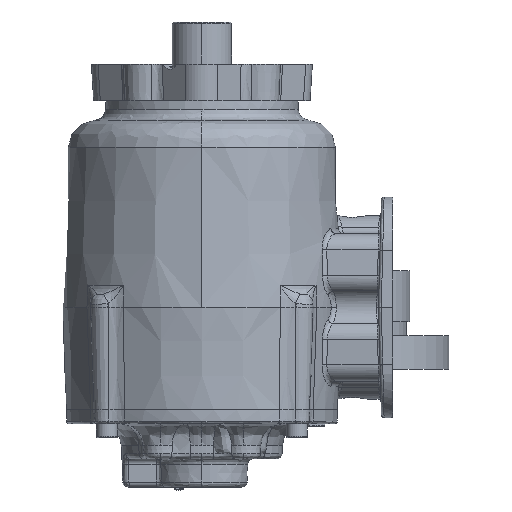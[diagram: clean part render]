
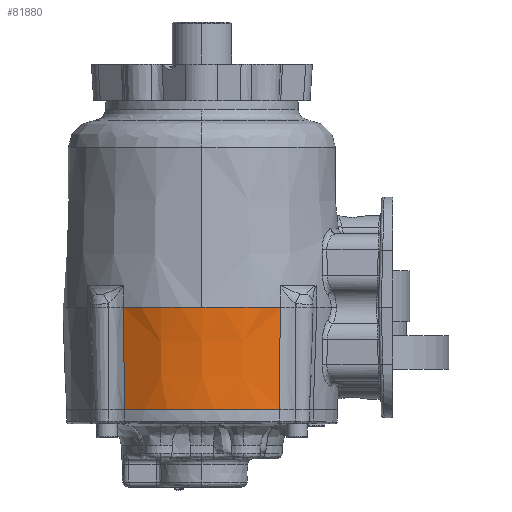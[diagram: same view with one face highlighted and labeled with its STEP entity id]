
A CAD part, left-side view. The second image highlights one B-rep face of the part: STEP entity #81880.
In plain terms, the highlighted conical face has half-angle 2 degrees and reference radius 78.232 mm.
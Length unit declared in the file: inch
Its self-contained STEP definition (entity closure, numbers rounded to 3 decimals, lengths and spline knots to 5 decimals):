
#57018 = CIRCLE ( 'NONE', #57024, 3.08 ) ;
#57024 = AXIS2_PLACEMENT_3D ( 'NONE', #85794, #85797, #85799 ) ;
#80983 = EDGE_CURVE ( 'NONE', #104927, #104926, #57018, .T. ) ;
#81880 = ADVANCED_FACE ( 'NONE', ( #130548 ), #95428, .T. ) ;
#82659 = EDGE_CURVE ( 'NONE', #104926, #95153, #95875, .T. ) ;
#82662 = EDGE_CURVE ( 'NONE', #95059, #95083, #95877, .T. ) ;
#82872 = EDGE_CURVE ( 'NONE', #95059, #95153, #154703, .T. ) ;
#82909 = EDGE_CURVE ( 'NONE', #104927, #95083, #154713, .T. ) ;
#85794 = CARTESIAN_POINT ( 'NONE',  ( -0.32707, 0.03727, -0.86956 ) ) ;
#85797 = DIRECTION ( 'NONE',  ( 0., 0., 1. ) ) ;
#85799 = DIRECTION ( 'NONE',  ( 1., 0., 0. ) ) ;
#86270 = EDGE_LOOP ( 'NONE', ( #99540, #99541, #99542, #99543, #99544 ) ) ;
#95059 = VERTEX_POINT ( 'NONE', #172900 ) ;
#95083 = VERTEX_POINT ( 'NONE', #172922 ) ;
#95153 = VERTEX_POINT ( 'NONE', #174325 ) ;
#95428 = CONICAL_SURFACE ( 'NONE', #95430, 3.08, 0.035 ) ;
#95430 = AXIS2_PLACEMENT_3D ( 'NONE', #130552, #130550, #130547 ) ;
#95866 = AXIS2_PLACEMENT_3D ( 'NONE', #153123, #153125, #153127 ) ;
#95875 = CIRCLE ( 'NONE', #95866, 3.08 ) ;
#95877 = CIRCLE ( 'NONE', #95882, 3.00092 ) ;
#95882 = AXIS2_PLACEMENT_3D ( 'NONE', #153131, #153133, #153135 ) ;
#99540 = ORIENTED_EDGE ( 'NONE', *, *, #80983, .F. ) ;
#99541 = ORIENTED_EDGE ( 'NONE', *, *, #82909, .T. ) ;
#99542 = ORIENTED_EDGE ( 'NONE', *, *, #82662, .F. ) ;
#99543 = ORIENTED_EDGE ( 'NONE', *, *, #82872, .T. ) ;
#99544 = ORIENTED_EDGE ( 'NONE', *, *, #82659, .F. ) ;
#104926 = VERTEX_POINT ( 'NONE', #155761 ) ;
#104927 = VERTEX_POINT ( 'NONE', #155762 ) ;
#130547 = DIRECTION ( 'NONE',  ( 1., 0., 0. ) ) ;
#130548 = FACE_OUTER_BOUND ( 'NONE', #86270, .T. ) ;
#130550 = DIRECTION ( 'NONE',  ( 0., 0., 1. ) ) ;
#130552 = CARTESIAN_POINT ( 'NONE',  ( -0.32707, 0.03727, -0.86956 ) ) ;
#153123 = CARTESIAN_POINT ( 'NONE',  ( -0.32707, 0.03727, -0.86956 ) ) ;
#153125 = DIRECTION ( 'NONE',  ( 0., 0., 1. ) ) ;
#153127 = DIRECTION ( 'NONE',  ( 1., 0., 0. ) ) ;
#153131 = CARTESIAN_POINT ( 'NONE',  ( -0.32707, 0.03727, -3.13406 ) ) ;
#153133 = DIRECTION ( 'NONE',  ( 0., 0., -1. ) ) ;
#153135 = DIRECTION ( 'NONE',  ( 1., 0., 0. ) ) ;
#153808 = CARTESIAN_POINT ( 'NONE',  ( -2.79144, -1.67515, -3.13406 ) ) ;
#153820 = CARTESIAN_POINT ( 'NONE',  ( -2.81732, -1.6828, -2.4006 ) ) ;
#153865 = CARTESIAN_POINT ( 'NONE',  ( -2.84382, -1.69078, -1.64577 ) ) ;
#153867 = CARTESIAN_POINT ( 'NONE',  ( -2.87096, -1.6991, -0.86956 ) ) ;
#154024 = CARTESIAN_POINT ( 'NONE',  ( -2.84382, 1.76533, -1.64577 ) ) ;
#154026 = CARTESIAN_POINT ( 'NONE',  ( -2.87096, 1.77365, -0.86956 ) ) ;
#154043 = CARTESIAN_POINT ( 'NONE',  ( -2.81732, 1.75734, -2.4006 ) ) ;
#154045 = CARTESIAN_POINT ( 'NONE',  ( -2.79144, 1.7497, -3.13406 ) ) ;
#154703 = B_SPLINE_CURVE_WITH_KNOTS ( 'NONE', 3,
 ( #153808, #153820, #153865, #153867 ),
 .UNSPECIFIED., .F., .F.,
 ( 4, 4 ),
 ( 0., 1. ),
 .UNSPECIFIED. ) ;
#154713 = B_SPLINE_CURVE_WITH_KNOTS ( 'NONE', 3,
 ( #154026, #154024, #154043, #154045 ),
 .UNSPECIFIED., .F., .F.,
 ( 4, 4 ),
 ( 0., 1. ),
 .UNSPECIFIED. ) ;
#155761 = CARTESIAN_POINT ( 'NONE',  ( -3.40707, 0.03727, -0.86956 ) ) ;
#155762 = CARTESIAN_POINT ( 'NONE',  ( -2.87096, 1.77365, -0.86956 ) ) ;
#172900 = CARTESIAN_POINT ( 'NONE',  ( -2.79144, -1.67515, -3.13406 ) ) ;
#172922 = CARTESIAN_POINT ( 'NONE',  ( -2.79144, 1.7497, -3.13406 ) ) ;
#174325 = CARTESIAN_POINT ( 'NONE',  ( -2.87096, -1.6991, -0.86956 ) ) ;
